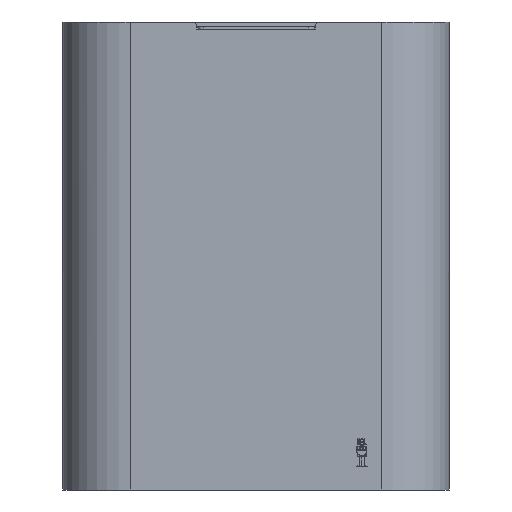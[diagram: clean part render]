
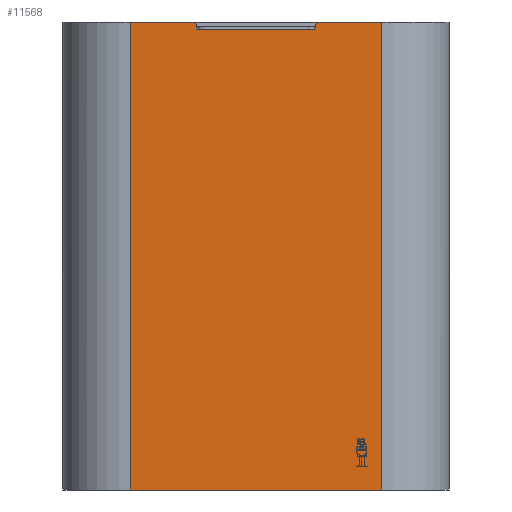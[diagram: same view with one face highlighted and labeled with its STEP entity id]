
A CAD part, front view. The second image highlights one B-rep face of the part: STEP entity #11568.
In plain terms, the highlighted planar face has unit normal (0, -1, 0).
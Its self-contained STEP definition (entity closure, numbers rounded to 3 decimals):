
#515=PLANE('',#12315);
#977=FACE_OUTER_BOUND('',#1660,.T.);
#1660=EDGE_LOOP('',(#8234,#8235,#8236,#8237,#8238,#8239,#8240,#8241,#8242,
#8243));
#2492=LINE('',#17138,#3670);
#2502=LINE('',#17163,#3680);
#2504=LINE('',#17166,#3682);
#2505=LINE('',#17169,#3683);
#2516=LINE('',#17256,#3694);
#2526=LINE('',#17335,#3704);
#2528=LINE('',#17340,#3706);
#2530=LINE('',#17344,#3708);
#3670=VECTOR('',#13582,3.);
#3680=VECTOR('',#13602,3.);
#3682=VECTOR('',#13606,102.);
#3683=VECTOR('',#13609,53.5);
#3694=VECTOR('',#13640,400.);
#3704=VECTOR('',#13680,400.);
#3706=VECTOR('',#13688,215.);
#3708=VECTOR('',#13694,53.5);
#4809=CIRCLE('',#12275,3.);
#4812=CIRCLE('',#12281,3.);
#5281=VERTEX_POINT('',#17125);
#5282=VERTEX_POINT('',#17126);
#5286=VERTEX_POINT('',#17136);
#5294=VERTEX_POINT('',#17156);
#5295=VERTEX_POINT('',#17158);
#5296=VERTEX_POINT('',#17162);
#5297=VERTEX_POINT('',#17168);
#5312=VERTEX_POINT('',#17253);
#5313=VERTEX_POINT('',#17255);
#5317=VERTEX_POINT('',#17334);
#6388=EDGE_CURVE('',#5281,#5282,#4809,.T.);
#6394=EDGE_CURVE('',#5281,#5286,#2492,.T.);
#6404=EDGE_CURVE('',#5294,#5295,#4812,.T.);
#6406=EDGE_CURVE('',#5296,#5295,#2502,.T.);
#6408=EDGE_CURVE('',#5286,#5296,#2504,.T.);
#6409=EDGE_CURVE('',#5282,#5297,#2505,.T.);
#6431=EDGE_CURVE('',#5313,#5312,#2516,.T.);
#6449=EDGE_CURVE('',#5297,#5317,#2526,.T.);
#6452=EDGE_CURVE('',#5312,#5317,#2528,.T.);
#6454=EDGE_CURVE('',#5313,#5294,#2530,.T.);
#8234=ORIENTED_EDGE('',*,*,#6388,.F.);
#8235=ORIENTED_EDGE('',*,*,#6394,.T.);
#8236=ORIENTED_EDGE('',*,*,#6408,.T.);
#8237=ORIENTED_EDGE('',*,*,#6406,.T.);
#8238=ORIENTED_EDGE('',*,*,#6404,.F.);
#8239=ORIENTED_EDGE('',*,*,#6454,.F.);
#8240=ORIENTED_EDGE('',*,*,#6431,.T.);
#8241=ORIENTED_EDGE('',*,*,#6452,.T.);
#8242=ORIENTED_EDGE('',*,*,#6449,.F.);
#8243=ORIENTED_EDGE('',*,*,#6409,.F.);
#11568=ADVANCED_FACE('',(#977),#515,.T.);
#12275=AXIS2_PLACEMENT_3D('',#17127,#13572,#13573);
#12281=AXIS2_PLACEMENT_3D('',#17159,#13597,#13598);
#12315=AXIS2_PLACEMENT_3D('',#17345,#13695,#13696);
#13572=DIRECTION('center_axis',(0.,1.,0.));
#13573=DIRECTION('ref_axis',(-0.707,0.,0.707));
#13582=DIRECTION('',(0.,0.,-1.));
#13597=DIRECTION('center_axis',(0.,1.,0.));
#13598=DIRECTION('ref_axis',(0.707,0.,0.707));
#13602=DIRECTION('',(0.,0.,1.));
#13606=DIRECTION('',(-1.,0.,0.));
#13609=DIRECTION('',(1.,0.,0.));
#13640=DIRECTION('',(0.,0.,-1.));
#13680=DIRECTION('',(0.,0.,-1.));
#13688=DIRECTION('',(1.,0.,0.));
#13694=DIRECTION('',(1.,0.,0.));
#13695=DIRECTION('center_axis',(0.,-1.,0.));
#13696=DIRECTION('ref_axis',(0.,0.,1.));
#17125=CARTESIAN_POINT('',(51.,-57.5,197.));
#17126=CARTESIAN_POINT('',(54.,-57.5,200.));
#17127=CARTESIAN_POINT('Origin',(54.,-57.5,197.));
#17136=CARTESIAN_POINT('',(51.,-57.5,194.));
#17138=CARTESIAN_POINT('',(51.,-57.5,100.));
#17156=CARTESIAN_POINT('',(-54.,-57.5,200.));
#17158=CARTESIAN_POINT('',(-51.,-57.5,197.));
#17159=CARTESIAN_POINT('Origin',(-54.,-57.5,197.));
#17162=CARTESIAN_POINT('',(-51.,-57.5,194.));
#17163=CARTESIAN_POINT('',(-51.,-57.5,97.));
#17166=CARTESIAN_POINT('',(25.5,-57.5,194.));
#17168=CARTESIAN_POINT('',(107.5,-57.5,200.));
#17169=CARTESIAN_POINT('',(-309.758,-57.5,200.));
#17253=CARTESIAN_POINT('',(-107.5,-57.5,-200.));
#17255=CARTESIAN_POINT('',(-107.5,-57.5,200.));
#17256=CARTESIAN_POINT('',(-107.5,-57.5,0.));
#17334=CARTESIAN_POINT('',(107.5,-57.5,-200.));
#17335=CARTESIAN_POINT('',(107.5,-57.5,0.));
#17340=CARTESIAN_POINT('',(-309.758,-57.5,-200.));
#17344=CARTESIAN_POINT('',(-309.758,-57.5,200.));
#17345=CARTESIAN_POINT('Origin',(0.,-57.5,0.));
